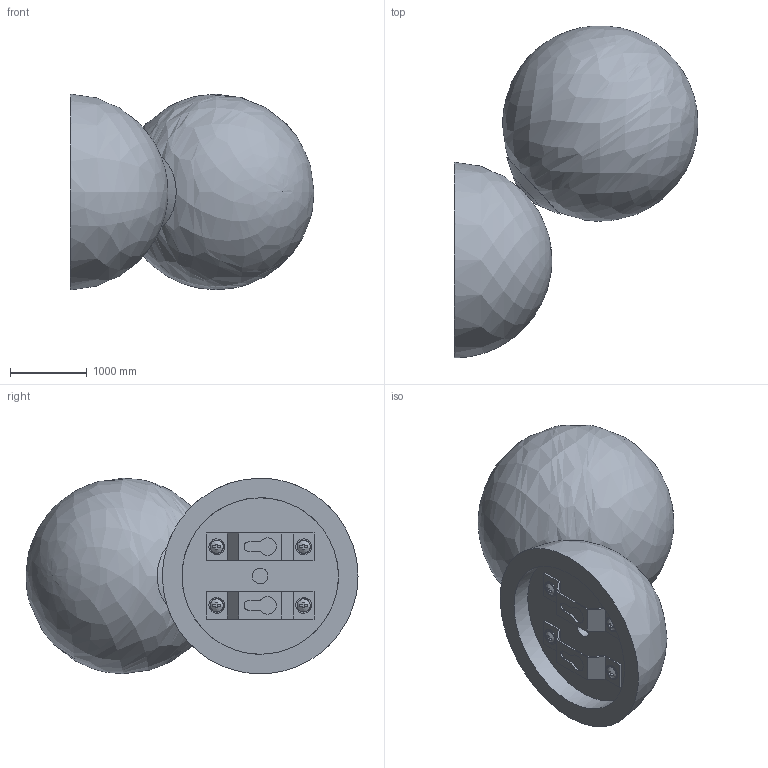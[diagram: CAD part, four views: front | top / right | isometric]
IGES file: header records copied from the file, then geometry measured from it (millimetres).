
Global section: file name: Celestial Travertine Wall Sconce-H6.7″,4; native system: 8HAutoCAD 2022 - 简体中文 (Simplified Chinese); preprocessor: Autodesk Translation Framework DWG producer (atf_dwg_producer); organization: unknown; date: 20250420.100531; units: inch
Bounding box: 3169.05 x 4312.27 x 2540.45 mm (x, y, z)
Volume: 4121199064.6 mm3; surface area: 62345896.3 mm2
Topology: 10 solids, 10 shells, 348 faces, 869 edges, 657 vertices
Faces by surface type: bspline 348
